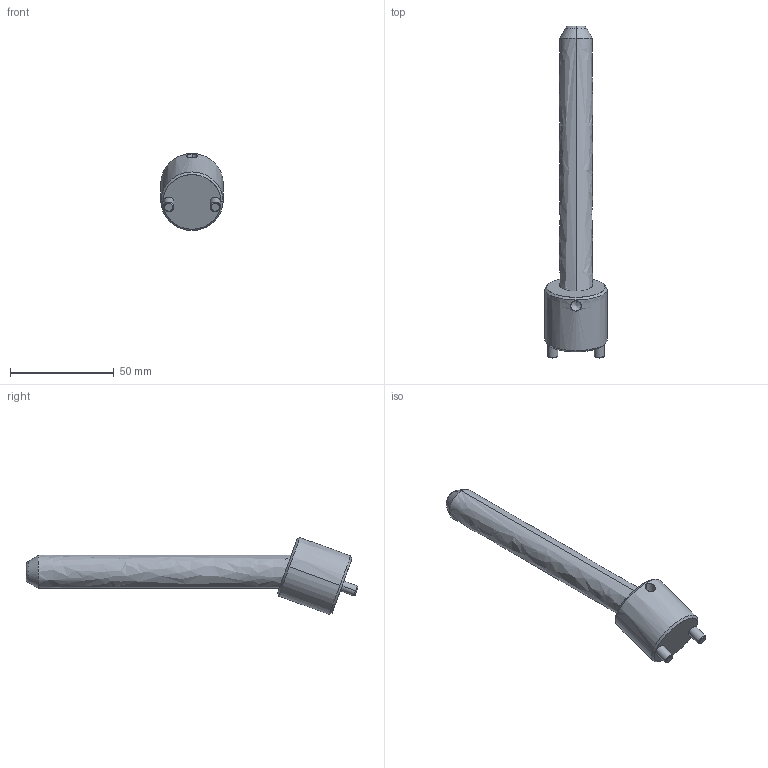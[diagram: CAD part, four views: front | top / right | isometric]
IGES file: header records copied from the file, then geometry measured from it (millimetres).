
Start section: START RECORD GO HERE.
Global section: file name: CI2016125.igs; native system: DASSAULT SYSTEMES CATIA V5 R20 - www.3ds.com; preprocessor: CATIA Version 5 Release 20 ; author: r.borello; organization: CFTORINO; date: 20190624.084056; units: millimetre
Bounding box: 30 x 160.07 x 37.08 mm (x, y, z)
Surface area: 13205.6 mm2 (no closed solid volume)
Topology: 0 solids, 0 shells, 39 faces, 162 edges, 160 vertices
Faces by surface type: revolution 32, plane 7
